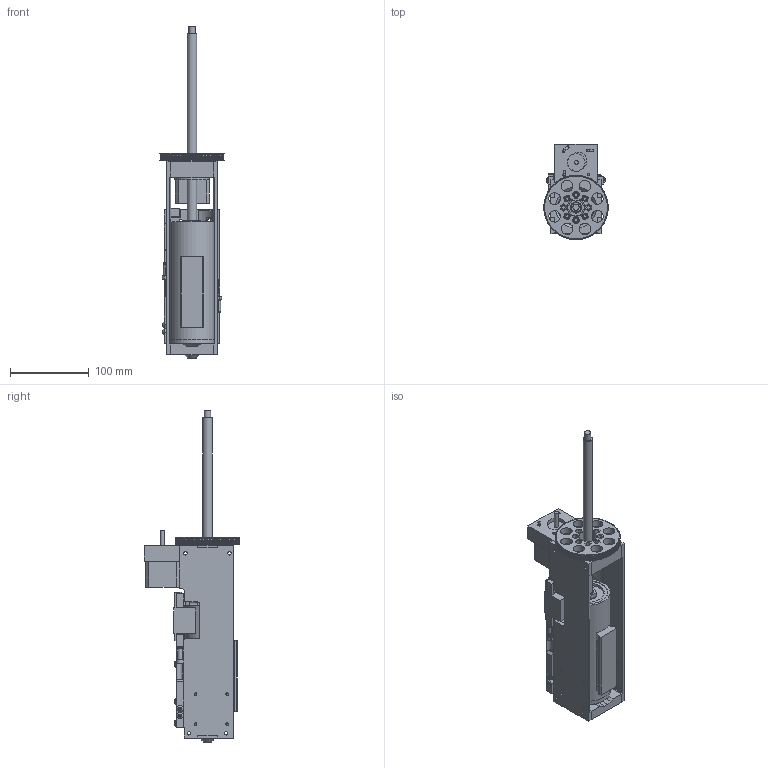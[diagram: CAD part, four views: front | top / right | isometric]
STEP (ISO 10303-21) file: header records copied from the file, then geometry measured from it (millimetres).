
FILE_DESCRIPTION(/* description */ (''),/* implementation_level */ '2;1');
FILE_NAME(/* name */ 'C:/Dropbox/cba/end-effectors/2019-06_mudstick/cad/2021-07-16_mudstick-v24.step',/* time_stamp */ '2021-07-16T11:47:12-04:00',/* author */ (''),/* organization */ (''),/* preprocessor_version */ 'ST-DEVELOPER v18.1',/* originating_system */ 'Autodesk Translation Framework v10.9.0.1377',/* authorisation */ '');
FILE_SCHEMA (('AUTOMOTIVE_DESIGN { 1 0 10303 214 3 1 1 }'));
Length unit declared in the file: millimetre
Products named in the file (8): Mudstick; 2298K420_METRIC QUICK-GRIP SCREW-CLAMP BUSHING; N17 48mm; Mudstick Plate; Hotplate Pogo Drop; BHCS M4 x 25 92095A197; PULL OUT DOWEL 6x16 97355A292; BHCS M4x10 92095A190
Assembly tree (11 placements, depth 3):
  Mudstick
    2298K420_METRIC QUICK-GRIP SCREW-CLAMP BUSHING
    N17 48mm
    Mudstick Plate
      Hotplate Pogo Drop
      BHCS M4 x 25 92095A197  x2
      PULL OUT DOWEL 6x16 97355A292  x2
      BHCS M4x10 92095A190  x3
Bounding box: 82.19 x 121.53 x 421.54 mm (x, y, z)
Volume: 742679.4 mm3; surface area: 296741.4 mm2
Topology: 27 solids, 27 shells, 2095 faces, 5707 edges, 3671 vertices
Faces by surface type: cylinder 1198, plane 526, bspline 211, cone 106, sphere 33, torus 21
Full cylindrical faces by diameter (mm): 2.6 x2, 3 x4, 3.091 x86, 3.25 x1, 3.3 x11, 3.4 x6, 4 x121, 4.25 x44, 5 x1, 6 x3, 7.6 x5, 8 x2, 8.5 x5, 10 x2, 10.203 x1, 12 x3, 14.5 x2, 14.74 x8, 16 x1, 18.75 x1, 19 x1, 20.875 x1, 22 x1, 22.5 x2, 22.746 x1, 23.2 x1, 25 x1, 40 x2, 44 x2, 46 x1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
Entity records: 90877 total; most frequent: CARTESIAN_POINT 46484, ORIENTED_EDGE 10298, DIRECTION 7583, EDGE_CURVE 5149, VERTEX_POINT 3334, AXIS2_PLACEMENT_3D 2740, LINE 2103, VECTOR 2103
